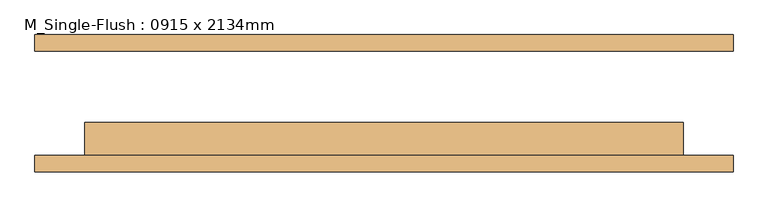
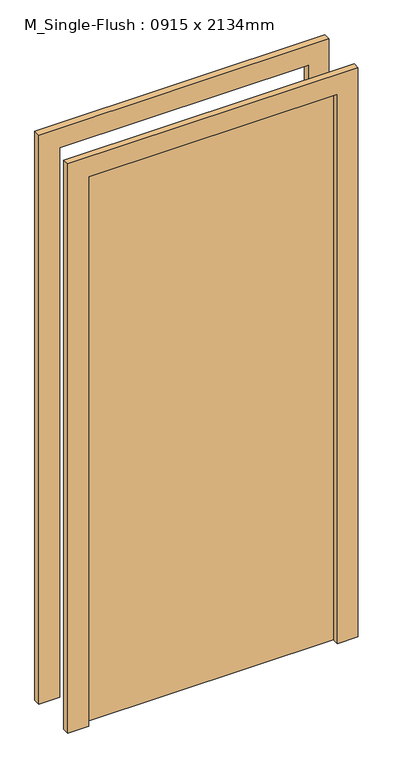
"""IFC4 building model written with IfcOpenShell, lengths in millimetres: door geometry, M_Single-Flush : 0915 x 2134mm."""

from ifc_helpers import new_model, si_unit, frame, origin, origin_with_axes, place, context, project, spatial, polyline, outline, extrude, source, transform, mapped, element, save


def m_single_flush_0915_x_2134mm_27e29ea0(model_context):
    return source(origin(), model_context, "Body", "SweptSolid", [
        extrude(outline(polyline([(2210.0, -533.5), (0.0, -533.5), (0.0, -457.5), (2134.0, -457.5), (2134.0, 457.5), (0.0, 457.5), (0.0, 533.5), (2210.0, 533.5), (2210.0, -533.5)])), frame((0.0, -105.0, 0.0), z_axis=(0.0, 1.0, 0.0), x_axis=(0.0, 0.0, 1.0)), (0.0, 0.0, 1.0), 25.0),
        extrude(outline(polyline([(2210.0, 533.5), (2210.0, -533.5), (0.0, -533.5), (0.0, -457.5), (2134.0, -457.5), (2134.0, 457.5), (0.0, 457.5), (0.0, 533.5), (2210.0, 533.5)])), frame((0.0, 80.0, 0.0), z_axis=(0.0, 1.0, 0.0), x_axis=(0.0, 0.0, 1.0)), (0.0, 0.0, 1.0), 25.0),
        extrude(outline(polyline([(457.5, -29.0), (457.5, -80.0), (-457.5, -80.0), (-457.5, -29.0), (457.5, -29.0)])), origin_with_axes(), (0.0, 0.0, 1.0), 2134.0),
    ])


if __name__ == "__main__":
    model = new_model("IFC4")
    model_context = context("Model", 3, world=origin())
    ifc_project = project(units=[si_unit("LENGTHUNIT", "METRE", prefix="MILLI")], contexts=[model_context])
    site = spatial("IfcSite", under=ifc_project)
    building = spatial("IfcBuilding", under=site)
    placement = place(None, origin())
    m_single_flush_0915_x_2134mm_shape = m_single_flush_0915_x_2134mm_27e29ea0(model_context)
    element("IfcDoor", 1, ObjectType="M_Single-Flush : 0915 x 2134mm", at=placement, inside=building, context=model_context, shape_type="MappedRepresentation", body=[
        mapped(m_single_flush_0915_x_2134mm_shape, transform((0.0, 0.0, 0.0), x_axis=(1.0, 0.0, 0.0), y_axis=(0.0, 1.0, 0.0), z_axis=(0.0, 0.0, 1.0))),
    ])
    save(model, "model.ifc")
